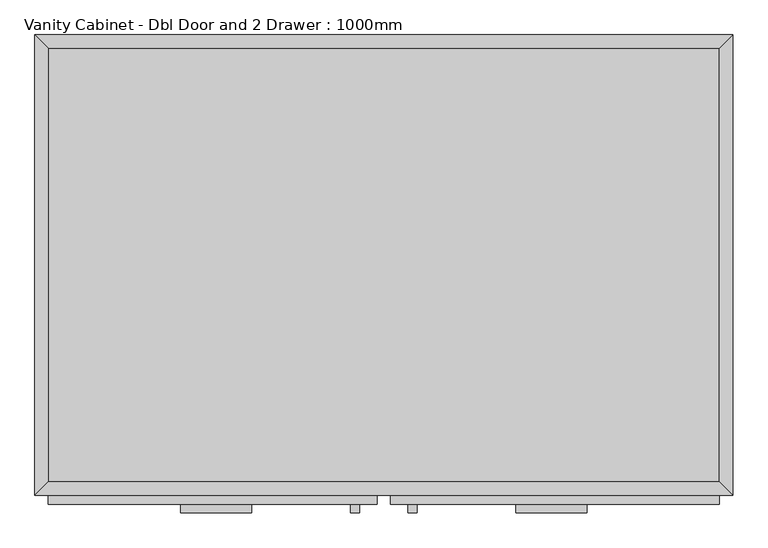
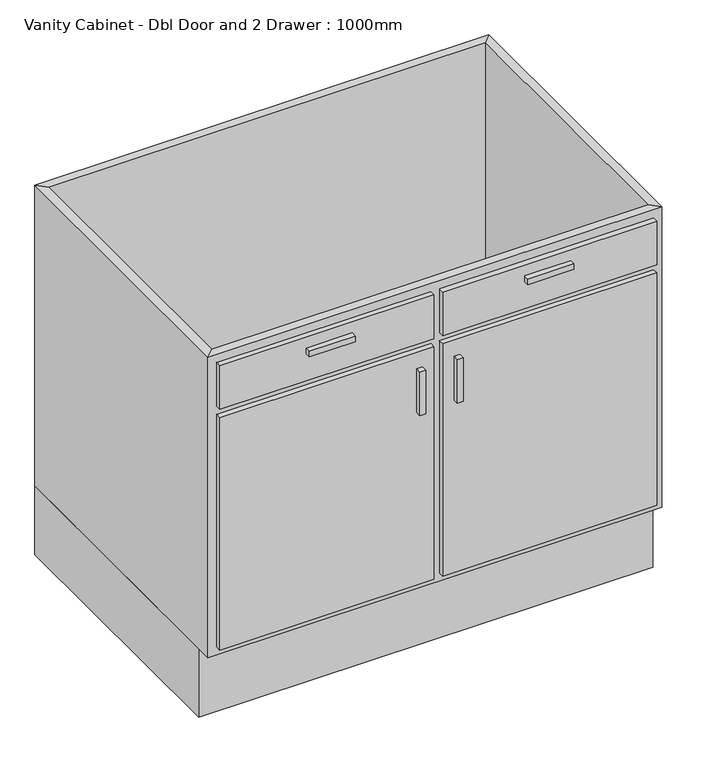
"""IFC4 building model written with IfcOpenShell, lengths in millimetres: furniture geometry, Vanity Cabinet - Dbl Door and 2 Drawer : 1000mm."""

from ifc_helpers import new_model, si_unit, frame, origin, origin_with_axes, place, context, project, spatial, polyline, outline, extrude, faceted_brep, source, transform, mapped, element, save


def vanity_cabinet_dbl_door_and_2_drawer_1000mm_7e6be740(model_context):
    return source(origin(), model_context, "Body", "SolidModel", [
        extrude(outline(polyline([(499.6877049, -19.05), (499.6877049, -640.95), (-462.2122951, -640.95), (-462.2122951, -19.05), (499.6877049, -19.05)])), frame((0.0, 0.0, 160.0), z_axis=(0.0, 0.0, 1.0), x_axis=(1.0, 0.0, 0.0)), (0.0, 0.0, 1.0), 19.05),
        faceted_brep([(499.6877049, -640.95, 860.0), (499.6877049, -640.95, 160.0), (-462.2122951, -640.95, 160.0), (-462.2122951, -640.95, 860.0), (518.7377049, -660.0, 860.0), (-481.2622951, -660.0, 860.0), (518.7377049, -660.0, 160.0), (-481.2622951, -660.0, 160.0), (-462.2122951, -19.05, 160.0), (-462.2122951, -19.05, 860.0), (-481.2622951, 0.0, 860.0), (-481.2622951, 0.0, 160.0), (499.6877049, -19.05, 160.0), (499.6877049, -19.05, 860.0), (518.7377049, 0.0, 860.0), (518.7377049, 0.0, 160.0)], [[[0, 1, 2, 3]], [[4, 0, 3, 5]], [[6, 4, 5, 7]], [[1, 6, 7, 2]], [[3, 2, 8, 9]], [[5, 3, 9, 10]], [[7, 5, 10, 11]], [[2, 7, 11, 8]], [[9, 8, 12, 13]], [[10, 9, 13, 14]], [[11, 10, 14, 15]], [[8, 11, 15, 12]], [[13, 12, 1, 0]], [[14, 13, 0, 4]], [[15, 14, 4, 6]], [[12, 15, 6, 1]]]),
        extrude(outline(polyline([(518.7377049, 0.0), (518.7377049, -625.0), (-481.2622951, -625.0), (-481.2622951, 0.0), (518.7377049, 0.0)])), origin_with_axes(), (0.0, 0.0, 1.0), 160.0),
        extrude(outline(polyline([(-170.9372951, -685.4), (-272.5372951, -685.4), (-272.5372951, -672.7), (-170.9372951, -672.7), (-170.9372951, -685.4)])), frame((0.0, 0.0, 802.85), z_axis=(0.0, 0.0, 1.0), x_axis=(1.0, 0.0, 0.0)), (0.0, 0.0, 1.0), 12.7),
        extrude(outline(polyline([(310.0127049, -685.4), (208.4127049, -685.4), (208.4127049, -672.7), (310.0127049, -672.7), (310.0127049, -685.4)])), frame((0.0, 0.0, 802.85), z_axis=(0.0, 0.0, 1.0), x_axis=(1.0, 0.0, 0.0)), (0.0, 0.0, 1.0), 12.7),
        extrude(outline(polyline([(-16.1872951, -685.4), (-28.8872951, -685.4), (-28.8872951, -672.7), (-16.1872951, -672.7), (-16.1872951, -685.4)])), frame((0.0, 0.0, 580.6), z_axis=(0.0, 0.0, 1.0), x_axis=(1.0, 0.0, 0.0)), (0.0, 0.0, 1.0), 101.6),
        extrude(outline(polyline([(66.3627049, -685.4), (53.6627049, -685.4), (53.6627049, -672.7), (66.3627049, -672.7), (66.3627049, -685.4)])), frame((0.0, 0.0, 580.6), z_axis=(0.0, 0.0, 1.0), x_axis=(1.0, 0.0, 0.0)), (0.0, 0.0, 1.0), 101.6),
        extrude(outline(polyline([(9.2127049, -672.7), (-462.2122951, -672.7), (-462.2122951, -660.0), (9.2127049, -660.0), (9.2127049, -672.7)])), frame((0.0, 0.0, 739.35), z_axis=(0.0, 0.0, 1.0), x_axis=(1.0, 0.0, 0.0)), (0.0, 0.0, 1.0), 101.6),
        extrude(outline(polyline([(499.6877049, -672.7), (28.2627049, -672.7), (28.2627049, -660.0), (499.6877049, -660.0), (499.6877049, -672.7)])), frame((0.0, 0.0, 739.35), z_axis=(0.0, 0.0, 1.0), x_axis=(1.0, 0.0, 0.0)), (0.0, 0.0, 1.0), 101.6),
        extrude(outline(polyline([(9.2127049, -672.7), (-462.2122951, -672.7), (-462.2122951, -660.0), (9.2127049, -660.0), (9.2127049, -672.7)])), frame((0.0, 0.0, 179.05), z_axis=(0.0, 0.0, 1.0), x_axis=(1.0, 0.0, 0.0)), (0.0, 0.0, 1.0), 541.25),
        extrude(outline(polyline([(499.6877049, -672.7), (28.2627049, -672.7), (28.2627049, -660.0), (499.6877049, -660.0), (499.6877049, -672.7)])), frame((0.0, 0.0, 179.05), z_axis=(0.0, 0.0, 1.0), x_axis=(1.0, 0.0, 0.0)), (0.0, 0.0, 1.0), 541.25),
    ])


if __name__ == "__main__":
    model = new_model("IFC4")
    model_context = context("Model", 3, world=origin())
    ifc_project = project(units=[si_unit("LENGTHUNIT", "METRE", prefix="MILLI")], contexts=[model_context])
    site = spatial("IfcSite", under=ifc_project)
    building = spatial("IfcBuilding", under=site)
    placement = place(None, origin())
    vanity_cabinet_dbl_door_and_2_drawer_1000mm_shape = vanity_cabinet_dbl_door_and_2_drawer_1000mm_7e6be740(model_context)
    element("IfcFurniture", 1, ObjectType="Vanity Cabinet - Dbl Door and 2 Drawer : 1000mm", at=placement, inside=building, context=model_context, shape_type="MappedRepresentation", body=[
        mapped(vanity_cabinet_dbl_door_and_2_drawer_1000mm_shape, transform((0.0, 0.0, 0.0), x_axis=(1.0, 0.0, 0.0), y_axis=(0.0, 1.0, 0.0), z_axis=(0.0, 0.0, 1.0))),
    ])
    save(model, "model.ifc")
